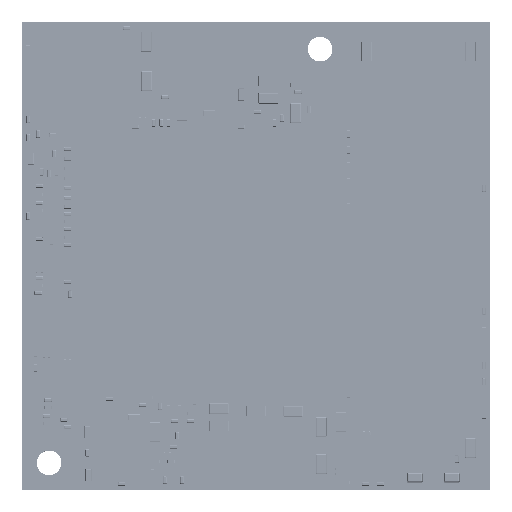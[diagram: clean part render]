
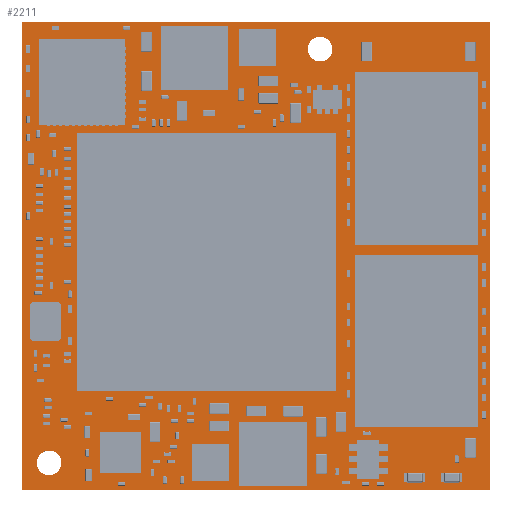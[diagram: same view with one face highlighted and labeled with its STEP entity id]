
A CAD part, top view. The second image highlights one B-rep face of the part: STEP entity #2211.
In plain terms, the highlighted planar face has unit normal (0, 0, 1).
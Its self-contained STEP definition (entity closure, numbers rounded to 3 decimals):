
#1719 = VERTEX_POINT('',#1720);
#1720 = CARTESIAN_POINT('',(0.,38.,1.664));
#1727 = PLANE('',#1728);
#1728 = AXIS2_PLACEMENT_3D('',#1729,#1730,#1731);
#1729 = CARTESIAN_POINT('',(0.,38.,0.));
#1730 = DIRECTION('',(1.,0.,0.));
#1731 = DIRECTION('',(0.,-1.,0.));
#1739 = PLANE('',#1740);
#1740 = AXIS2_PLACEMENT_3D('',#1741,#1742,#1743);
#1741 = CARTESIAN_POINT('',(38.,38.,0.));
#1742 = DIRECTION('',(0.,-1.,0.));
#1743 = DIRECTION('',(-1.,0.,0.));
#1751 = EDGE_CURVE('',#1719,#1752,#1754,.T.);
#1752 = VERTEX_POINT('',#1753);
#1753 = CARTESIAN_POINT('',(0.,0.,1.664));
#1754 = SURFACE_CURVE('',#1755,(#1759,#1766),.PCURVE_S1.);
#1755 = LINE('',#1756,#1757);
#1756 = CARTESIAN_POINT('',(0.,38.,1.664));
#1757 = VECTOR('',#1758,1.);
#1758 = DIRECTION('',(0.,-1.,0.));
#1759 = PCURVE('',#1727,#1760);
#1760 = DEFINITIONAL_REPRESENTATION('',(#1761),#1765);
#1761 = LINE('',#1762,#1763);
#1762 = CARTESIAN_POINT('',(0.,-1.664));
#1763 = VECTOR('',#1764,1.);
#1764 = DIRECTION('',(1.,0.));
#1765 = ( GEOMETRIC_REPRESENTATION_CONTEXT(2) 
PARAMETRIC_REPRESENTATION_CONTEXT() REPRESENTATION_CONTEXT('2D SPACE',''
  ) );
#1766 = PCURVE('',#1767,#1772);
#1767 = PLANE('',#1768);
#1768 = AXIS2_PLACEMENT_3D('',#1769,#1770,#1771);
#1769 = CARTESIAN_POINT('',(0.,38.,1.664));
#1770 = DIRECTION('',(0.,0.,-1.));
#1771 = DIRECTION('',(-1.,0.,0.));
#1772 = DEFINITIONAL_REPRESENTATION('',(#1773),#1777);
#1773 = LINE('',#1774,#1775);
#1774 = CARTESIAN_POINT('',(0.,0.));
#1775 = VECTOR('',#1776,1.);
#1776 = DIRECTION('',(0.,-1.));
#1777 = ( GEOMETRIC_REPRESENTATION_CONTEXT(2) 
PARAMETRIC_REPRESENTATION_CONTEXT() REPRESENTATION_CONTEXT('2D SPACE',''
  ) );
#1795 = PLANE('',#1796);
#1796 = AXIS2_PLACEMENT_3D('',#1797,#1798,#1799);
#1797 = CARTESIAN_POINT('',(0.,0.,0.));
#1798 = DIRECTION('',(0.,1.,0.));
#1799 = DIRECTION('',(1.,0.,0.));
#1837 = EDGE_CURVE('',#1752,#1838,#1840,.T.);
#1838 = VERTEX_POINT('',#1839);
#1839 = CARTESIAN_POINT('',(38.,0.,1.664));
#1840 = SURFACE_CURVE('',#1841,(#1845,#1852),.PCURVE_S1.);
#1841 = LINE('',#1842,#1843);
#1842 = CARTESIAN_POINT('',(0.,0.,1.664));
#1843 = VECTOR('',#1844,1.);
#1844 = DIRECTION('',(1.,0.,0.));
#1845 = PCURVE('',#1795,#1846);
#1846 = DEFINITIONAL_REPRESENTATION('',(#1847),#1851);
#1847 = LINE('',#1848,#1849);
#1848 = CARTESIAN_POINT('',(0.,-1.664));
#1849 = VECTOR('',#1850,1.);
#1850 = DIRECTION('',(1.,0.));
#1851 = ( GEOMETRIC_REPRESENTATION_CONTEXT(2) 
PARAMETRIC_REPRESENTATION_CONTEXT() REPRESENTATION_CONTEXT('2D SPACE',''
  ) );
#1852 = PCURVE('',#1767,#1853);
#1853 = DEFINITIONAL_REPRESENTATION('',(#1854),#1858);
#1854 = LINE('',#1855,#1856);
#1855 = CARTESIAN_POINT('',(0.,-38.));
#1856 = VECTOR('',#1857,1.);
#1857 = DIRECTION('',(-1.,0.));
#1858 = ( GEOMETRIC_REPRESENTATION_CONTEXT(2) 
PARAMETRIC_REPRESENTATION_CONTEXT() REPRESENTATION_CONTEXT('2D SPACE',''
  ) );
#1876 = PLANE('',#1877);
#1877 = AXIS2_PLACEMENT_3D('',#1878,#1879,#1880);
#1878 = CARTESIAN_POINT('',(38.,0.,0.));
#1879 = DIRECTION('',(-1.,0.,0.));
#1880 = DIRECTION('',(0.,1.,0.));
#1913 = EDGE_CURVE('',#1838,#1914,#1916,.T.);
#1914 = VERTEX_POINT('',#1915);
#1915 = CARTESIAN_POINT('',(38.,38.,1.664));
#1916 = SURFACE_CURVE('',#1917,(#1921,#1928),.PCURVE_S1.);
#1917 = LINE('',#1918,#1919);
#1918 = CARTESIAN_POINT('',(38.,0.,1.664));
#1919 = VECTOR('',#1920,1.);
#1920 = DIRECTION('',(0.,1.,0.));
#1921 = PCURVE('',#1876,#1922);
#1922 = DEFINITIONAL_REPRESENTATION('',(#1923),#1927);
#1923 = LINE('',#1924,#1925);
#1924 = CARTESIAN_POINT('',(0.,-1.664));
#1925 = VECTOR('',#1926,1.);
#1926 = DIRECTION('',(1.,0.));
#1927 = ( GEOMETRIC_REPRESENTATION_CONTEXT(2) 
PARAMETRIC_REPRESENTATION_CONTEXT() REPRESENTATION_CONTEXT('2D SPACE',''
  ) );
#1928 = PCURVE('',#1767,#1929);
#1929 = DEFINITIONAL_REPRESENTATION('',(#1930),#1934);
#1930 = LINE('',#1931,#1932);
#1931 = CARTESIAN_POINT('',(-38.,-38.));
#1932 = VECTOR('',#1933,1.);
#1933 = DIRECTION('',(0.,1.));
#1934 = ( GEOMETRIC_REPRESENTATION_CONTEXT(2) 
PARAMETRIC_REPRESENTATION_CONTEXT() REPRESENTATION_CONTEXT('2D SPACE',''
  ) );
#1984 = EDGE_CURVE('',#1914,#1719,#1985,.T.);
#1985 = SURFACE_CURVE('',#1986,(#1990,#1997),.PCURVE_S1.);
#1986 = LINE('',#1987,#1988);
#1987 = CARTESIAN_POINT('',(38.,38.,1.664));
#1988 = VECTOR('',#1989,1.);
#1989 = DIRECTION('',(-1.,0.,0.));
#1990 = PCURVE('',#1739,#1991);
#1991 = DEFINITIONAL_REPRESENTATION('',(#1992),#1996);
#1992 = LINE('',#1993,#1994);
#1993 = CARTESIAN_POINT('',(0.,-1.664));
#1994 = VECTOR('',#1995,1.);
#1995 = DIRECTION('',(1.,0.));
#1996 = ( GEOMETRIC_REPRESENTATION_CONTEXT(2) 
PARAMETRIC_REPRESENTATION_CONTEXT() REPRESENTATION_CONTEXT('2D SPACE',''
  ) );
#1997 = PCURVE('',#1767,#1998);
#1998 = DEFINITIONAL_REPRESENTATION('',(#1999),#2003);
#1999 = LINE('',#2000,#2001);
#2000 = CARTESIAN_POINT('',(-38.,0.));
#2001 = VECTOR('',#2002,1.);
#2002 = DIRECTION('',(1.,0.));
#2003 = ( GEOMETRIC_REPRESENTATION_CONTEXT(2) 
PARAMETRIC_REPRESENTATION_CONTEXT() REPRESENTATION_CONTEXT('2D SPACE',''
  ) );
#2033 = VERTEX_POINT('',#2034);
#2034 = CARTESIAN_POINT('',(3.2,2.2,1.664));
#2041 = CYLINDRICAL_SURFACE('',#2042,1.);
#2042 = AXIS2_PLACEMENT_3D('',#2043,#2044,#2045);
#2043 = CARTESIAN_POINT('',(2.2,2.2,0.));
#2044 = DIRECTION('',(0.,0.,-1.));
#2045 = DIRECTION('',(1.,0.,0.));
#2060 = EDGE_CURVE('',#2033,#2033,#2061,.T.);
#2061 = SURFACE_CURVE('',#2062,(#2067,#2074),.PCURVE_S1.);
#2062 = CIRCLE('',#2063,1.);
#2063 = AXIS2_PLACEMENT_3D('',#2064,#2065,#2066);
#2064 = CARTESIAN_POINT('',(2.2,2.2,1.664));
#2065 = DIRECTION('',(0.,0.,1.));
#2066 = DIRECTION('',(1.,0.,0.));
#2067 = PCURVE('',#2041,#2068);
#2068 = DEFINITIONAL_REPRESENTATION('',(#2069),#2073);
#2069 = LINE('',#2070,#2071);
#2070 = CARTESIAN_POINT('',(0.,-1.664));
#2071 = VECTOR('',#2072,1.);
#2072 = DIRECTION('',(-1.,0.));
#2073 = ( GEOMETRIC_REPRESENTATION_CONTEXT(2) 
PARAMETRIC_REPRESENTATION_CONTEXT() REPRESENTATION_CONTEXT('2D SPACE',''
  ) );
#2074 = PCURVE('',#1767,#2075);
#2075 = DEFINITIONAL_REPRESENTATION('',(#2076),#2084);
#2076 = ( BOUNDED_CURVE() B_SPLINE_CURVE(2,(#2077,#2078,#2079,#2080,
#2081,#2082,#2083),.UNSPECIFIED.,.T.,.F.) B_SPLINE_CURVE_WITH_KNOTS((1,2
    ,2,2,2,1),(-2.094,0.,2.094,4.189,
6.283,8.378),.UNSPECIFIED.) CURVE() 
GEOMETRIC_REPRESENTATION_ITEM() RATIONAL_B_SPLINE_CURVE((1.,0.5,1.,0.5,
1.,0.5,1.)) REPRESENTATION_ITEM('') );
#2077 = CARTESIAN_POINT('',(-3.2,-35.8));
#2078 = CARTESIAN_POINT('',(-3.2,-34.068));
#2079 = CARTESIAN_POINT('',(-1.7,-34.934));
#2080 = CARTESIAN_POINT('',(-0.2,-35.8));
#2081 = CARTESIAN_POINT('',(-1.7,-36.666));
#2082 = CARTESIAN_POINT('',(-3.2,-37.532));
#2083 = CARTESIAN_POINT('',(-3.2,-35.8));
#2084 = ( GEOMETRIC_REPRESENTATION_CONTEXT(2) 
PARAMETRIC_REPRESENTATION_CONTEXT() REPRESENTATION_CONTEXT('2D SPACE',''
  ) );
#2119 = VERTEX_POINT('',#2120);
#2120 = CARTESIAN_POINT('',(25.2,35.8,1.664));
#2127 = CYLINDRICAL_SURFACE('',#2128,1.);
#2128 = AXIS2_PLACEMENT_3D('',#2129,#2130,#2131);
#2129 = CARTESIAN_POINT('',(24.2,35.8,0.));
#2130 = DIRECTION('',(0.,0.,-1.));
#2131 = DIRECTION('',(1.,0.,0.));
#2146 = EDGE_CURVE('',#2119,#2119,#2147,.T.);
#2147 = SURFACE_CURVE('',#2148,(#2153,#2160),.PCURVE_S1.);
#2148 = CIRCLE('',#2149,1.);
#2149 = AXIS2_PLACEMENT_3D('',#2150,#2151,#2152);
#2150 = CARTESIAN_POINT('',(24.2,35.8,1.664));
#2151 = DIRECTION('',(0.,0.,1.));
#2152 = DIRECTION('',(1.,0.,0.));
#2153 = PCURVE('',#2127,#2154);
#2154 = DEFINITIONAL_REPRESENTATION('',(#2155),#2159);
#2155 = LINE('',#2156,#2157);
#2156 = CARTESIAN_POINT('',(0.,-1.664));
#2157 = VECTOR('',#2158,1.);
#2158 = DIRECTION('',(-1.,0.));
#2159 = ( GEOMETRIC_REPRESENTATION_CONTEXT(2) 
PARAMETRIC_REPRESENTATION_CONTEXT() REPRESENTATION_CONTEXT('2D SPACE',''
  ) );
#2160 = PCURVE('',#1767,#2161);
#2161 = DEFINITIONAL_REPRESENTATION('',(#2162),#2170);
#2162 = ( BOUNDED_CURVE() B_SPLINE_CURVE(2,(#2163,#2164,#2165,#2166,
#2167,#2168,#2169),.UNSPECIFIED.,.T.,.F.) B_SPLINE_CURVE_WITH_KNOTS((1,2
    ,2,2,2,1),(-2.094,0.,2.094,4.189,
6.283,8.378),.UNSPECIFIED.) CURVE() 
GEOMETRIC_REPRESENTATION_ITEM() RATIONAL_B_SPLINE_CURVE((1.,0.5,1.,0.5,
1.,0.5,1.)) REPRESENTATION_ITEM('') );
#2163 = CARTESIAN_POINT('',(-25.2,-2.2));
#2164 = CARTESIAN_POINT('',(-25.2,-0.468));
#2165 = CARTESIAN_POINT('',(-23.7,-1.334));
#2166 = CARTESIAN_POINT('',(-22.2,-2.2));
#2167 = CARTESIAN_POINT('',(-23.7,-3.066));
#2168 = CARTESIAN_POINT('',(-25.2,-3.932));
#2169 = CARTESIAN_POINT('',(-25.2,-2.2));
#2170 = ( GEOMETRIC_REPRESENTATION_CONTEXT(2) 
PARAMETRIC_REPRESENTATION_CONTEXT() REPRESENTATION_CONTEXT('2D SPACE',''
  ) );
#2211 = ADVANCED_FACE('',(#2212,#2218,#2221),#1767,.F.);
#2212 = FACE_BOUND('',#2213,.T.);
#2213 = EDGE_LOOP('',(#2214,#2215,#2216,#2217));
#2214 = ORIENTED_EDGE('',*,*,#1751,.T.);
#2215 = ORIENTED_EDGE('',*,*,#1837,.T.);
#2216 = ORIENTED_EDGE('',*,*,#1913,.T.);
#2217 = ORIENTED_EDGE('',*,*,#1984,.T.);
#2218 = FACE_BOUND('',#2219,.F.);
#2219 = EDGE_LOOP('',(#2220));
#2220 = ORIENTED_EDGE('',*,*,#2060,.T.);
#2221 = FACE_BOUND('',#2222,.F.);
#2222 = EDGE_LOOP('',(#2223));
#2223 = ORIENTED_EDGE('',*,*,#2146,.T.);
